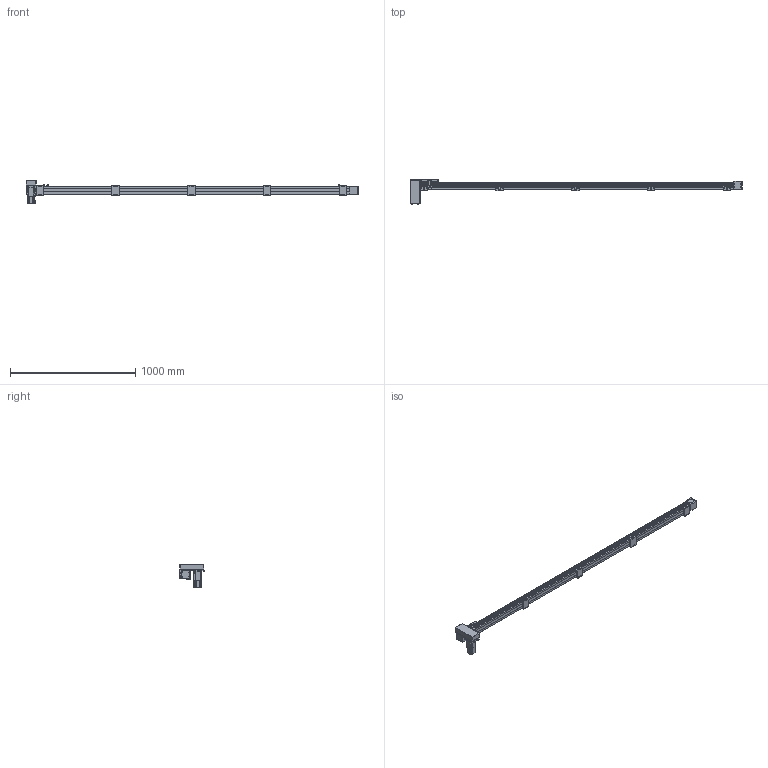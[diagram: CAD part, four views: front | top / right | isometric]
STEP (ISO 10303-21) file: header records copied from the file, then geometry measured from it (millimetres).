
FILE_DESCRIPTION(/* description */ ('STEP AP214'),/* implementation_level */ '2;1');
FILE_NAME(/* name */ 'SK60-P13-S2350-RD-T40-C1-N(0)',/* time_stamp */ '2023-04-06T04:56:53+02:00',/* author */ ('License CC BY-ND 4.0'),/* organization */ ('CADENAS'),/* preprocessor_version */ 'ST-DEVELOPER v19.3',/* originating_system */ 'PARTsolutions',/* authorisation */ ' ');
FILE_SCHEMA (('AUTOMOTIVE_DESIGN {1 0 10303 214 3 1 1}'));
Length unit declared in the file: millimetre
Products named in the file (10): SK60-P13-S2350-RD-T40-C1-N(0); PSC140-sensor; SK60-S450_seat; SK60-S450-BL-C1_slider; SK60_body3; SK60_body6; SK60-BL_body2; T40-p1; SK60-RD_fb; SK60-S2350-RD-C1_body
Assembly tree (19 placements, depth 2):
  SK60-P13-S2350-RD-T40-C1-N(0)
    PSC140-sensor  x3
    SK60-S450_seat  x5
    SK60-S450-BL-C1_slider
    SK60_body3  x3
    SK60_body6  x2
    SK60-BL_body2  x2
    T40-p1
    SK60-RD_fb
    SK60-S2350-RD-C1_body
Bounding box: 2655.5 x 199 x 189.7 mm (x, y, z)
Volume: 10203873.2 mm3; surface area: 1206387 mm2
Topology: 19 solids, 19 shells, 942 faces, 2342 edges, 1541 vertices
Faces by surface type: plane 596, cylinder 310, cone 34, torus 2
Full cylindrical faces by diameter (mm): 2.8 x3, 3.3 x4, 4 x2, 4.5 x30, 4.6 x3, 4.917 x28, 5 x6, 5.478 x4, 5.5 x31, 6.5 x10, 7 x2, 8 x4, 8.5 x4, 9.988 x4, 10 x20, 14 x1, 47 x3, 50 x2
Entity records: 18679 total; most frequent: DIRECTION 3190, CARTESIAN_POINT 3153, ORIENTED_EDGE 2940, EDGE_CURVE 1470, AXIS2_PLACEMENT_3D 1071, LINE 1048, VECTOR 1048, VERTEX_POINT 1034
